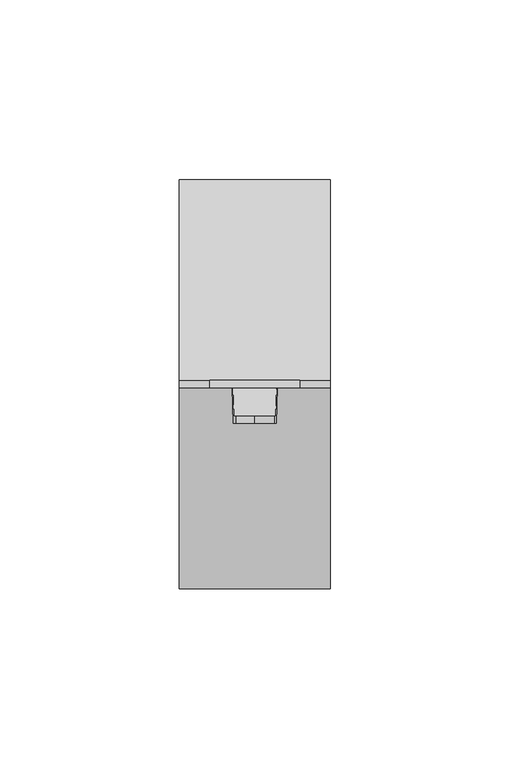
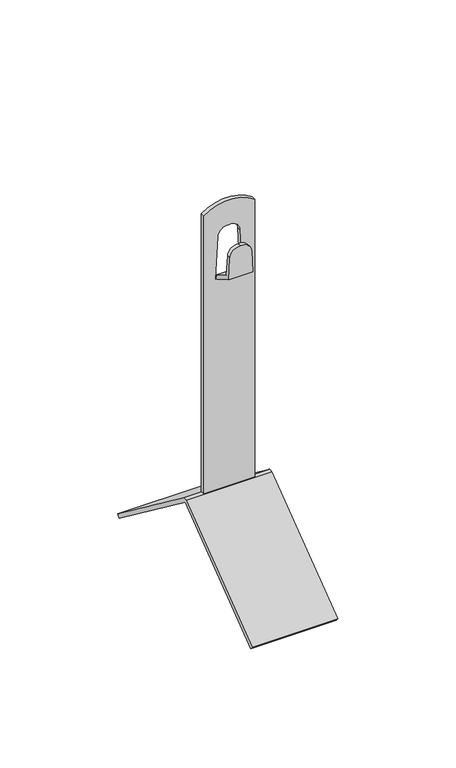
"""IFC4 building model written with IfcOpenShell, lengths in millimetres: proxy geometry, КНС_ЗажимУгловойКоньковый _DKC : ND2201_Горячеоцинкованная сталь_150 мм."""

from ifc_helpers import new_model, si_unit, point, frame, frame_2d, origin, place, context, project, spatial, polyline, circle_curve, trimmed, segment, composite_curve, outline, extrude, source, transform, mapped, element, save
from ifc_brep_helpers import plane_surface, cylinder_surface, advanced_brep


def security_devices_44daf8d6(model_context):
    return source(origin(), model_context, "Body", "SolidModel", [
        extrude(outline(polyline([(55.8136019, -42.0), (0.0, 0.0), (-55.8136019, -42.0), (-57.0000602, -40.3898066), (-1.0, 1.7505042), (1.0, 1.7505042), (57.0000602, -40.3898066), (55.8136019, -42.0)])), frame((-21.0, 0.0, 0.0), z_axis=(1.0, 0.0, 0.0), x_axis=(0.0, 1.0, 0.0)), (0.0, 0.0, 1.0), 42.0),
        extrude(outline(composite_curve([segment(polyline([(1.7505042, -12.5), (1.7505042, 12.5), (145.874537, 12.5)]), True, "CONTINUOUS"), segment(trimmed(circle_curve(frame_2d((129.0, 0.0)), 21.0), [point((145.874537, 12.5))], [point((145.874537, -12.5))], False, "CARTESIAN"), True, "CONTINUOUS"), segment(polyline([(145.874537, -12.5), (1.7505042, -12.5)]), True, "CONTINUOUS")], self_intersect=False), holes=[composite_curve([segment(trimmed(circle_curve(frame_2d((132.4155168, -0.5834648)), 4.7876253), [point((132.6660817, -5.3645288))], [point((137.1674559, 0.0))], True, "CARTESIAN"), True, "CONTINUOUS"), segment(trimmed(circle_curve(frame_2d((132.4155168, 0.5834648)), 4.7876253), [point((137.1674559, 0.0))], [point((132.6660817, 5.3645288))], True, "CARTESIAN"), True, "CONTINUOUS"), segment(polyline([(132.6660817, 5.3645288), (111.0, 6.5), (111.0, -6.5), (132.6660817, -5.3645288)]), True, "CONTINUOUS")], self_intersect=False)]), frame((0.0, -1.0, 0.0), z_axis=(0.0, 1.0, 0.0), x_axis=(0.0, 0.0, 1.0)), (0.0, 0.0, 1.0), 2.0),
        advanced_brep(
        [(5.3645288, -11.0, 127.6660817), (0.0, -11.0, 132.1674559), (-5.3645288, -11.0, 127.6660817), (-5.9353846, -11.0, 116.7735027), (5.9353846, -11.0, 116.7735027), (6.2379611, -1.0, 111.0), (-6.2379611, -1.0, 111.0), (-6.1169305, -1.0, 113.3094011), (6.1169305, -1.0, 113.3094011), (-5.3645288, -9.0, 127.6660817), (-5.8748694, -9.0, 117.9282032), (5.8748694, -9.0, 117.9282032), (5.3645288, -9.0, 127.6660817), (0.0, -9.0, 132.1674559)],
        [
            (0, 1, circle_curve(frame((0.5834648, -11.0, 127.4155168), z_axis=(0.0, -1.0, 0.0), x_axis=(1.0, 0.0, 0.0)), 4.7876253)),
            (1, 2, circle_curve(frame((-0.5834648, -11.0, 127.4155168), z_axis=(0.0, -1.0, 0.0), x_axis=(1.0, 0.0, 0.0)), 4.7876253)),
            (2, 3),
            (3, 4),
            (4, 0),
            (5, 6),
            (6, 7),
            (7, 8),
            (8, 5),
            (2, 9),
            (9, 10),
            (10, 7),
            (6, 3),
            (4, 5),
            (8, 11),
            (11, 12),
            (12, 0),
            (12, 13, circle_curve(frame((0.5834648, -9.0, 127.4155168), z_axis=(0.0, -1.0, 0.0), x_axis=(1.0, 0.0, 0.0)), 4.7876253)),
            (13, 1),
            (13, 9, circle_curve(frame((-0.5834648, -9.0, 127.4155168), z_axis=(0.0, -1.0, 0.0), x_axis=(1.0, 0.0, 0.0)), 4.7876253)),
            (10, 11),
        ],
        [
            plane_surface(frame((-6.2414541, -11.0, 110.9333499), z_axis=(0.0, -1.0, 0.0), x_axis=(-0.05233595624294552, 0.0, -0.9986295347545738))),
            plane_surface(frame((-6.2414541, -1.0, 110.9333499), z_axis=(0.0, 1.0, 0.0), x_axis=(0.05233595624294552, 0.0, 0.9986295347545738))),
            plane_surface(frame((-5.3645288, -11.0, 127.6660817), z_axis=(-0.9986295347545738, 0.0, 0.05233595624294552), x_axis=(0.0, 1.0, 0.0))),
            plane_surface(frame((6.2379611, -11.0, 111.0), z_axis=(0.9986295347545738, 0.0, 0.05233595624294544), x_axis=(0.0, 1.0, 0.0))),
            cylinder_surface(frame((0.5834648, -1.0, 127.4155168), z_axis=(0.0, -1.0, 0.0), x_axis=(1.0, 0.0, 0.0)), 4.7876253),
            cylinder_surface(frame((-0.5834648, -1.0, 127.4155168), z_axis=(0.0, -1.0, 0.0), x_axis=(1.0, 0.0, 0.0)), 4.7876253),
            plane_surface(frame((12.5, -1.0, 111.0), z_axis=(0.0, -0.5000000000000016, -0.8660254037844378), x_axis=(-1.0, 0.0, 0.0))),
            plane_surface(frame((12.5, -9.0, 117.9282032), z_axis=(0.0, 0.5000000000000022, 0.8660254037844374), x_axis=(-1.0, 0.0, 0.0))),
            plane_surface(frame((12.5, -9.0, 142.9372685), z_axis=(0.0, 1.0, 0.0), x_axis=(-1.0, 0.0, 0.0))),
        ],
        [
            (0, [[1, 2, 3, 4, 5]]),
            (1, [[6, 7, 8, 9]]),
            (2, [[-3, 10, 11, 12, -7, 13]]),
            (3, [[-5, 14, -9, 15, 16, 17]]),
            (4, [[-1, -17, 18, 19]]),
            (5, [[-2, -19, 20, -10]]),
            (6, [[-4, -13, -6, -14]]),
            (7, [[21, -15, -8, -12]]),
            (8, [[-21, -11, -20, -18, -16]]),
        ],
    ),
    ])


if __name__ == "__main__":
    model = new_model("IFC4")
    model_context = context("Model", 3, world=origin())
    ifc_project = project(units=[si_unit("LENGTHUNIT", "METRE", prefix="MILLI")], contexts=[model_context])
    site = spatial("IfcSite", under=ifc_project)
    building = spatial("IfcBuilding", under=site)
    placement = place(None, origin())
    security_devices_shape = security_devices_44daf8d6(model_context)
    element("IfcBuildingElementProxy", 1, Name="КНС_ЗажимУгловойКоньковый _DKC : ND2201_Горячеоцинкованная сталь_150 мм", ObjectType="КНС_ЗажимУгловойКоньковый _DKC : ND2201_Горячеоцинкованная сталь_150 мм", at=placement, inside=building, context=model_context, shape_type="MappedRepresentation", body=[
        mapped(security_devices_shape, transform((0.0, 0.0, 0.0), x_axis=(1.0, 0.0, 0.0), y_axis=(0.0, 1.0, 0.0), z_axis=(0.0, 0.0, 1.0))),
    ])
    save(model, "model.ifc")
